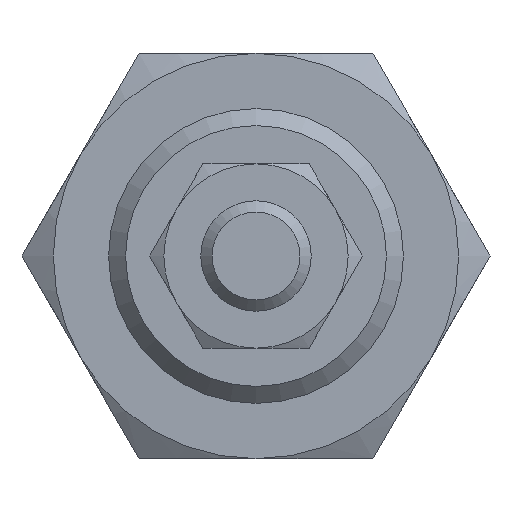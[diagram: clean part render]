
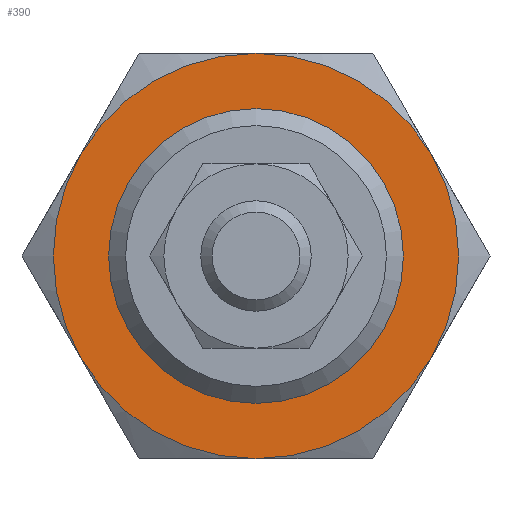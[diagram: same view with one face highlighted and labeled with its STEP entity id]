
A CAD part, left-side view. The second image highlights one B-rep face of the part: STEP entity #390.
In plain terms, the highlighted planar face has unit normal (-1, 0, 0).
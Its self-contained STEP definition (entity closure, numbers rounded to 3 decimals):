
#390 = ADVANCED_FACE( '', ( #812, #813 ), #814, .F. );
#812 = FACE_OUTER_BOUND( '', #1256, .T. );
#813 = FACE_BOUND( '', #1257, .T. );
#814 = PLANE( '', #1258 );
#1256 = EDGE_LOOP( '', ( #2152, #2153, #2154, #2155, #2156, #2157 ) );
#1257 = EDGE_LOOP( '', ( #2158 ) );
#1258 = AXIS2_PLACEMENT_3D( '', #2159, #2160, #2161 );
#2152 = ORIENTED_EDGE( '', *, *, #2642, .F. );
#2153 = ORIENTED_EDGE( '', *, *, #2415, .F. );
#2154 = ORIENTED_EDGE( '', *, *, #2541, .F. );
#2155 = ORIENTED_EDGE( '', *, *, #2739, .F. );
#2156 = ORIENTED_EDGE( '', *, *, #2730, .F. );
#2157 = ORIENTED_EDGE( '', *, *, #2740, .F. );
#2158 = ORIENTED_EDGE( '', *, *, #2467, .T. );
#2159 = CARTESIAN_POINT( '', ( -10., 0., 0. ) );
#2160 = DIRECTION( '', ( 1., 0., 0. ) );
#2161 = DIRECTION( '', ( 0., 0., -1. ) );
#2415 = EDGE_CURVE( '', #2818, #2816, #2820, .T. );
#2467 = EDGE_CURVE( '', #2910, #2910, #2911, .T. );
#2541 = EDGE_CURVE( '', #3029, #2818, #3031, .T. );
#2642 = EDGE_CURVE( '', #2816, #3180, #3183, .T. );
#2730 = EDGE_CURVE( '', #2805, #3248, #3295, .T. );
#2739 = EDGE_CURVE( '', #3248, #3029, #3304, .T. );
#2740 = EDGE_CURVE( '', #3180, #2805, #3305, .T. );
#2805 = VERTEX_POINT( '', #3389 );
#2816 = VERTEX_POINT( '', #3415 );
#2818 = VERTEX_POINT( '', #3422 );
#2820 = CIRCLE( '', #3431, 11. );
#2910 = VERTEX_POINT( '', #3592 );
#2911 = CIRCLE( '', #3593, 8. );
#3029 = VERTEX_POINT( '', #3786 );
#3031 = CIRCLE( '', #3795, 11. );
#3180 = VERTEX_POINT( '', #4011 );
#3183 = CIRCLE( '', #4026, 11. );
#3248 = VERTEX_POINT( '', #4142 );
#3295 = CIRCLE( '', #4229, 11. );
#3304 = CIRCLE( '', #4245, 11. );
#3305 = CIRCLE( '', #4246, 11. );
#3389 = CARTESIAN_POINT( '', ( -10., 0., 11. ) );
#3415 = CARTESIAN_POINT( '', ( -10., 9.526, -5.5 ) );
#3422 = CARTESIAN_POINT( '', ( -10., 0., -11. ) );
#3431 = AXIS2_PLACEMENT_3D( '', #4330, #4331, #4332 );
#3592 = CARTESIAN_POINT( '', ( -10., 0., -8. ) );
#3593 = AXIS2_PLACEMENT_3D( '', #4384, #4385, #4386 );
#3786 = CARTESIAN_POINT( '', ( -10., -9.526, -5.5 ) );
#3795 = AXIS2_PLACEMENT_3D( '', #4480, #4481, #4482 );
#4011 = CARTESIAN_POINT( '', ( -10., 9.526, 5.5 ) );
#4026 = AXIS2_PLACEMENT_3D( '', #4612, #4613, #4614 );
#4142 = CARTESIAN_POINT( '', ( -10., -9.526, 5.5 ) );
#4229 = AXIS2_PLACEMENT_3D( '', #4690, #4691, #4692 );
#4245 = AXIS2_PLACEMENT_3D( '', #4696, #4697, #4698 );
#4246 = AXIS2_PLACEMENT_3D( '', #4699, #4700, #4701 );
#4330 = CARTESIAN_POINT( '', ( -10., 0., 0. ) );
#4331 = DIRECTION( '', ( 1., 0., 0. ) );
#4332 = DIRECTION( '', ( 0., 0., -1. ) );
#4384 = CARTESIAN_POINT( '', ( -10., 0., 0. ) );
#4385 = DIRECTION( '', ( 1., 0., 0. ) );
#4386 = DIRECTION( '', ( 0., 0., -1. ) );
#4480 = CARTESIAN_POINT( '', ( -10., 0., 0. ) );
#4481 = DIRECTION( '', ( 1., 0., 0. ) );
#4482 = DIRECTION( '', ( 0., 0., -1. ) );
#4612 = CARTESIAN_POINT( '', ( -10., 0., 0. ) );
#4613 = DIRECTION( '', ( 1., 0., 0. ) );
#4614 = DIRECTION( '', ( 0., 0., -1. ) );
#4690 = CARTESIAN_POINT( '', ( -10., 0., 0. ) );
#4691 = DIRECTION( '', ( 1., 0., 0. ) );
#4692 = DIRECTION( '', ( 0., 0., -1. ) );
#4696 = CARTESIAN_POINT( '', ( -10., 0., 0. ) );
#4697 = DIRECTION( '', ( 1., 0., 0. ) );
#4698 = DIRECTION( '', ( 0., 0., -1. ) );
#4699 = CARTESIAN_POINT( '', ( -10., 0., 0. ) );
#4700 = DIRECTION( '', ( 1., 0., 0. ) );
#4701 = DIRECTION( '', ( 0., 0., -1. ) );
